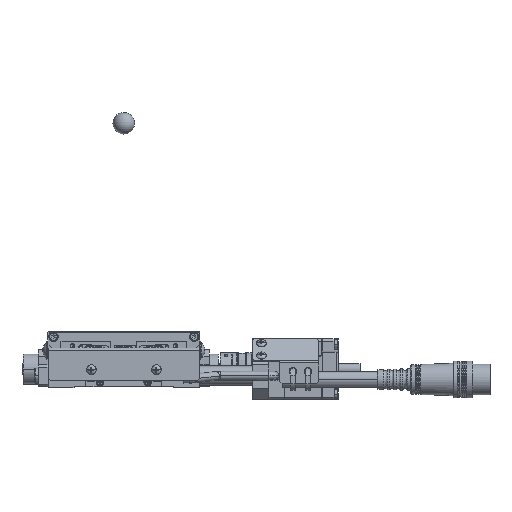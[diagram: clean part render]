
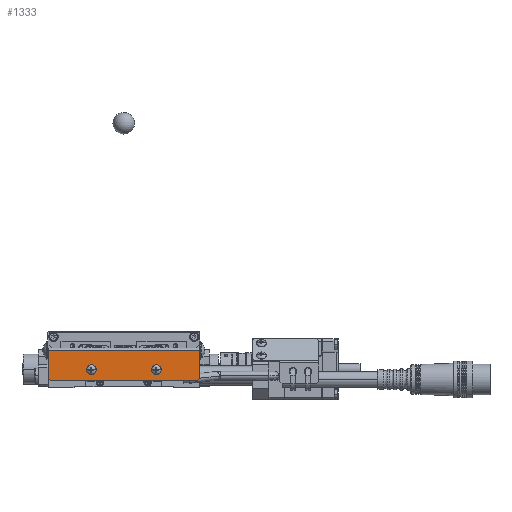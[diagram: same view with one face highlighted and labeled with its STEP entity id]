
A CAD part, front view. The second image highlights one B-rep face of the part: STEP entity #1333.
In plain terms, the highlighted planar face has unit normal (0, -1, 0).
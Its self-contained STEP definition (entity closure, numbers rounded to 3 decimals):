
#1333=ADVANCED_FACE('',(#13777,#13778,#13779),#13776,.T.);
#13776=PLANE('',#38225);
#13777=FACE_OUTER_BOUND('',#38226,.T.);
#13778=FACE_BOUND('',#38227,.T.);
#13779=FACE_BOUND('',#38228,.T.);
#38222=CARTESIAN_POINT('',(-42.,-50.,18.65));
#38223=DIRECTION('',(0.,-1.,0.));
#38224=DIRECTION('',(0.,0.,-1.));
#38225=AXIS2_PLACEMENT_3D('',#38222,#38223,#38224);
#38226=EDGE_LOOP('',(#55990,#55991,#55992,#55993,#55994,#55995));
#38227=EDGE_LOOP('',(#55996,#55997,#55998));
#38228=EDGE_LOOP('',(#55999,#56000,#56001));
#55990=ORIENTED_EDGE('',*,*,#68663,.F.);
#55991=ORIENTED_EDGE('',*,*,#68639,.T.);
#55992=ORIENTED_EDGE('',*,*,#68664,.T.);
#55993=ORIENTED_EDGE('',*,*,#68642,.T.);
#55994=ORIENTED_EDGE('',*,*,#68651,.T.);
#55995=ORIENTED_EDGE('',*,*,#68646,.T.);
#55996=ORIENTED_EDGE('',*,*,#68665,.F.);
#55997=ORIENTED_EDGE('',*,*,#68666,.F.);
#55998=ORIENTED_EDGE('',*,*,#68667,.F.);
#55999=ORIENTED_EDGE('',*,*,#68668,.F.);
#56000=ORIENTED_EDGE('',*,*,#68669,.F.);
#56001=ORIENTED_EDGE('',*,*,#68670,.F.);
#68639=EDGE_CURVE('',#94080,#94072,#94081,.T.);
#68642=EDGE_CURVE('',#94100,#94101,#94102,.T.);
#68646=EDGE_CURVE('',#94128,#94129,#94130,.T.);
#68651=EDGE_CURVE('',#94101,#94128,#94162,.T.);
#68663=EDGE_CURVE('',#94080,#94129,#94240,.T.);
#68664=EDGE_CURVE('',#94072,#94100,#94246,.T.);
#68665=EDGE_CURVE('',#94252,#94253,#94254,.T.);
#68666=EDGE_CURVE('',#94260,#94252,#94261,.T.);
#68667=EDGE_CURVE('',#94253,#94260,#94267,.T.);
#68668=EDGE_CURVE('',#94273,#94274,#94275,.T.);
#68669=EDGE_CURVE('',#94281,#94273,#94282,.T.);
#68670=EDGE_CURVE('',#94274,#94281,#94288,.T.);
#94072=VERTEX_POINT('',#135261);
#94080=VERTEX_POINT('',#135267);
#94081=LINE('',#135268,#135269);
#94100=VERTEX_POINT('',#135279);
#94101=VERTEX_POINT('',#135280);
#94102=LINE('',#135281,#135282);
#94128=VERTEX_POINT('',#135295);
#94129=VERTEX_POINT('',#135296);
#94130=LINE('',#135297,#135298);
#94162=LINE('',#135314,#135315);
#94240=LINE('',#135356,#135357);
#94246=LINE('',#135359,#135360);
#94252=VERTEX_POINT('',#135362);
#94253=VERTEX_POINT('',#135363);
#94254=CIRCLE('',#135367,2.25);
#94260=VERTEX_POINT('',#135368);
#94261=CIRCLE('',#135372,2.25);
#94267=CIRCLE('',#135376,2.25);
#94273=VERTEX_POINT('',#135377);
#94274=VERTEX_POINT('',#135378);
#94275=CIRCLE('',#135382,2.25);
#94281=VERTEX_POINT('',#135383);
#94282=CIRCLE('',#135387,2.25);
#94288=CIRCLE('',#135391,2.25);
#135261=CARTESIAN_POINT('',(-35.,-50.,17.25));
#135267=CARTESIAN_POINT('',(35.,-50.,17.25));
#135268=CARTESIAN_POINT('',(35.,-50.,17.25));
#135269=VECTOR('',#135270,70.);
#135270=DIRECTION('',(-1.,0.,0.));
#135279=CARTESIAN_POINT('',(-35.,-50.,4.25));
#135280=CARTESIAN_POINT('',(-34.,-50.,3.25));
#135281=CARTESIAN_POINT('',(-35.,-50.,4.25));
#135282=VECTOR('',#135283,1.414);
#135283=DIRECTION('',(0.707,0.,-0.707));
#135295=CARTESIAN_POINT('',(34.,-50.,3.25));
#135296=CARTESIAN_POINT('',(35.,-50.,4.25));
#135297=CARTESIAN_POINT('',(34.,-50.,3.25));
#135298=VECTOR('',#135299,1.414);
#135299=DIRECTION('',(0.707,0.,0.707));
#135314=CARTESIAN_POINT('',(-34.,-50.,3.25));
#135315=VECTOR('',#135316,68.);
#135316=DIRECTION('',(1.,0.,0.));
#135356=CARTESIAN_POINT('',(35.,-50.,17.25));
#135357=VECTOR('',#135358,13.);
#135358=DIRECTION('',(0.,0.,-1.));
#135359=CARTESIAN_POINT('',(-35.,-50.,17.25));
#135360=VECTOR('',#135361,13.);
#135361=DIRECTION('',(0.,0.,-1.));
#135362=CARTESIAN_POINT('',(-17.25,-50.,8.25));
#135363=CARTESIAN_POINT('',(-15.,-50.,6.));
#135364=CARTESIAN_POINT('',(-15.,-50.,8.25));
#135365=DIRECTION('',(0.,-1.,0.));
#135366=DIRECTION('',(0.,0.,-1.));
#135367=AXIS2_PLACEMENT_3D('',#135364,#135365,#135366);
#135368=CARTESIAN_POINT('',(-12.75,-50.,8.25));
#135369=CARTESIAN_POINT('',(-15.,-50.,8.25));
#135370=DIRECTION('',(0.,-1.,0.));
#135371=DIRECTION('',(0.,0.,-1.));
#135372=AXIS2_PLACEMENT_3D('',#135369,#135370,#135371);
#135373=CARTESIAN_POINT('',(-15.,-50.,8.25));
#135374=DIRECTION('',(0.,-1.,0.));
#135375=DIRECTION('',(0.,0.,-1.));
#135376=AXIS2_PLACEMENT_3D('',#135373,#135374,#135375);
#135377=CARTESIAN_POINT('',(12.75,-50.,8.25));
#135378=CARTESIAN_POINT('',(15.,-50.,6.));
#135379=CARTESIAN_POINT('',(15.,-50.,8.25));
#135380=DIRECTION('',(0.,-1.,0.));
#135381=DIRECTION('',(0.,0.,-1.));
#135382=AXIS2_PLACEMENT_3D('',#135379,#135380,#135381);
#135383=CARTESIAN_POINT('',(17.25,-50.,8.25));
#135384=CARTESIAN_POINT('',(15.,-50.,8.25));
#135385=DIRECTION('',(0.,-1.,0.));
#135386=DIRECTION('',(0.,0.,-1.));
#135387=AXIS2_PLACEMENT_3D('',#135384,#135385,#135386);
#135388=CARTESIAN_POINT('',(15.,-50.,8.25));
#135389=DIRECTION('',(0.,-1.,0.));
#135390=DIRECTION('',(0.,0.,-1.));
#135391=AXIS2_PLACEMENT_3D('',#135388,#135389,#135390);
